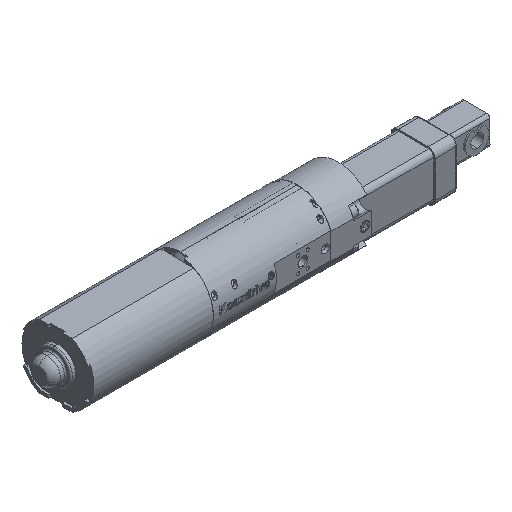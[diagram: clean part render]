
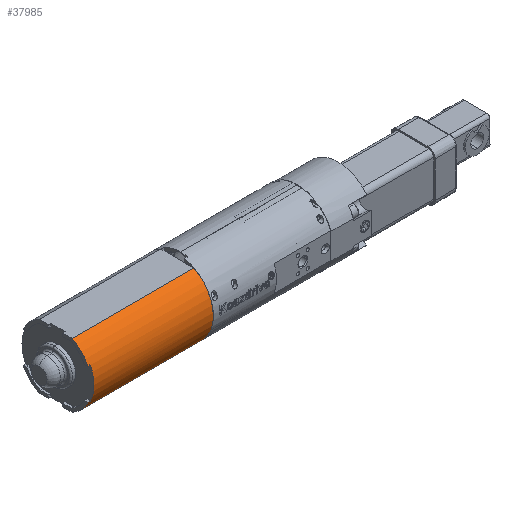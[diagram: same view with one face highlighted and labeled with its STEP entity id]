
A CAD part, isometric view. The second image highlights one B-rep face of the part: STEP entity #37985.
In plain terms, the highlighted cylindrical face has radius 22.5 mm (diameter 45 mm), a partial arc.
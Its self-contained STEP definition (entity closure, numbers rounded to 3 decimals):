
#2263 = DIRECTION ( 'NONE',  ( 0., 0., -1. ) ) ;
#2291 = VERTEX_POINT ( 'NONE', #16008 ) ;
#2652 = CARTESIAN_POINT ( 'NONE',  ( 0., 0., -78.7 ) ) ;
#2709 = ORIENTED_EDGE ( 'NONE', *, *, #6275, .T. ) ;
#4687 = ORIENTED_EDGE ( 'NONE', *, *, #26901, .F. ) ;
#4895 = DIRECTION ( 'NONE',  ( 0., 0., -1. ) ) ;
#4940 = EDGE_CURVE ( 'NONE', #10898, #14199, #7763, .T. ) ;
#6046 = ORIENTED_EDGE ( 'NONE', *, *, #4940, .F. ) ;
#6229 = CARTESIAN_POINT ( 'NONE',  ( 9.75, -20.278, -77.2 ) ) ;
#6275 = EDGE_CURVE ( 'NONE', #38739, #40819, #28868, .T. ) ;
#6585 = CARTESIAN_POINT ( 'NONE',  ( 20., -10.308, -78.7 ) ) ;
#7425 = VECTOR ( 'NONE', #32240, 1000. ) ;
#7646 = CARTESIAN_POINT ( 'NONE',  ( 20., -10.308, -2.5 ) ) ;
#7763 = CIRCLE ( 'NONE', #25332, 22.5 ) ;
#8051 = DIRECTION ( 'NONE',  ( -1., 0., 0. ) ) ;
#8466 = CARTESIAN_POINT ( 'NONE',  ( 0., 0., -65.435 ) ) ;
#8814 = DIRECTION ( 'NONE',  ( 0., 0., -1. ) ) ;
#9005 = ORIENTED_EDGE ( 'NONE', *, *, #26308, .T. ) ;
#9135 = VECTOR ( 'NONE', #8814, 1000. ) ;
#9289 = DIRECTION ( 'NONE',  ( -1., 0., 0. ) ) ;
#10329 = VERTEX_POINT ( 'NONE', #11143 ) ;
#10898 = VERTEX_POINT ( 'NONE', #6585 ) ;
#11029 = CARTESIAN_POINT ( 'NONE',  ( -20., -10.308, -78.7 ) ) ;
#11143 = CARTESIAN_POINT ( 'NONE',  ( -9.75, -20.278, -78.7 ) ) ;
#12186 = DIRECTION ( 'NONE',  ( 0., 0., -1. ) ) ;
#12433 = FACE_OUTER_BOUND ( 'NONE', #22833, .T. ) ;
#12517 = ORIENTED_EDGE ( 'NONE', *, *, #21279, .F. ) ;
#12944 = CARTESIAN_POINT ( 'NONE',  ( -20., -10.308, -2.5 ) ) ;
#14199 = VERTEX_POINT ( 'NONE', #14829 ) ;
#14442 = VECTOR ( 'NONE', #15409, 1000. ) ;
#14829 = CARTESIAN_POINT ( 'NONE',  ( 9.75, -20.278, -78.7 ) ) ;
#14914 = CARTESIAN_POINT ( 'NONE',  ( 0., 0., -77.2 ) ) ;
#15091 = VECTOR ( 'NONE', #4895, 1000. ) ;
#15296 = ORIENTED_EDGE ( 'NONE', *, *, #41986, .F. ) ;
#15409 = DIRECTION ( 'NONE',  ( 0., 0., -1. ) ) ;
#16008 = CARTESIAN_POINT ( 'NONE',  ( -9.75, -20.278, -77.2 ) ) ;
#16135 = VERTEX_POINT ( 'NONE', #6229 ) ;
#16573 = DIRECTION ( 'NONE',  ( 0., 0., -1. ) ) ;
#16829 = AXIS2_PLACEMENT_3D ( 'NONE', #34023, #24308, #31366 ) ;
#18424 = DIRECTION ( 'NONE',  ( 0., 0., -1. ) ) ;
#18574 = CARTESIAN_POINT ( 'NONE',  ( 20., -10.308, 39.5 ) ) ;
#21279 = EDGE_CURVE ( 'NONE', #16135, #2291, #26332, .T. ) ;
#21648 = LINE ( 'NONE', #18574, #15091 ) ;
#22830 = ORIENTED_EDGE ( 'NONE', *, *, #34000, .T. ) ;
#22833 = EDGE_LOOP ( 'NONE', ( #4687, #12517, #22830, #6046, #24508, #9005, #2709, #15296 ) ) ;
#23157 = DIRECTION ( 'NONE',  ( -1., 0., 0. ) ) ;
#24308 = DIRECTION ( 'NONE',  ( 0., 0., -1. ) ) ;
#24508 = ORIENTED_EDGE ( 'NONE', *, *, #26215, .F. ) ;
#25332 = AXIS2_PLACEMENT_3D ( 'NONE', #2652, #12186, #9289 ) ;
#25509 = CARTESIAN_POINT ( 'NONE',  ( -9.75, -20.278, -77.2 ) ) ;
#26215 = EDGE_CURVE ( 'NONE', #28090, #10898, #21648, .T. ) ;
#26308 = EDGE_CURVE ( 'NONE', #28090, #38739, #32689, .T. ) ;
#26332 = CIRCLE ( 'NONE', #31986, 22.5 ) ;
#26901 = EDGE_CURVE ( 'NONE', #2291, #10329, #35883, .T. ) ;
#28090 = VERTEX_POINT ( 'NONE', #7646 ) ;
#28868 = LINE ( 'NONE', #38990, #9135 ) ;
#29364 = CARTESIAN_POINT ( 'NONE',  ( 9.75, -20.278, -77.2 ) ) ;
#31366 = DIRECTION ( 'NONE',  ( -1., 0., 0. ) ) ;
#31986 = AXIS2_PLACEMENT_3D ( 'NONE', #14914, #18424, #8051 ) ;
#32240 = DIRECTION ( 'NONE',  ( 0., 0., -1. ) ) ;
#32650 = CARTESIAN_POINT ( 'NONE',  ( 0., 0., -2.5 ) ) ;
#32689 = CIRCLE ( 'NONE', #41118, 22.5 ) ;
#34000 = EDGE_CURVE ( 'NONE', #16135, #14199, #35550, .T. ) ;
#34023 = CARTESIAN_POINT ( 'NONE',  ( 0., 0., -78.7 ) ) ;
#35550 = LINE ( 'NONE', #29364, #7425 ) ;
#35810 = CIRCLE ( 'NONE', #16829, 22.5 ) ;
#35883 = LINE ( 'NONE', #25509, #14442 ) ;
#37817 = AXIS2_PLACEMENT_3D ( 'NONE', #8466, #2263, #38427 ) ;
#37985 = ADVANCED_FACE ( 'NONE', ( #12433 ), #38655, .T. ) ;
#38427 = DIRECTION ( 'NONE',  ( -1., 0., 0. ) ) ;
#38655 = CYLINDRICAL_SURFACE ( 'NONE', #37817, 22.5 ) ;
#38739 = VERTEX_POINT ( 'NONE', #12944 ) ;
#38990 = CARTESIAN_POINT ( 'NONE',  ( -20., -10.308, 39.5 ) ) ;
#40819 = VERTEX_POINT ( 'NONE', #11029 ) ;
#41118 = AXIS2_PLACEMENT_3D ( 'NONE', #32650, #16573, #23157 ) ;
#41986 = EDGE_CURVE ( 'NONE', #10329, #40819, #35810, .T. ) ;
